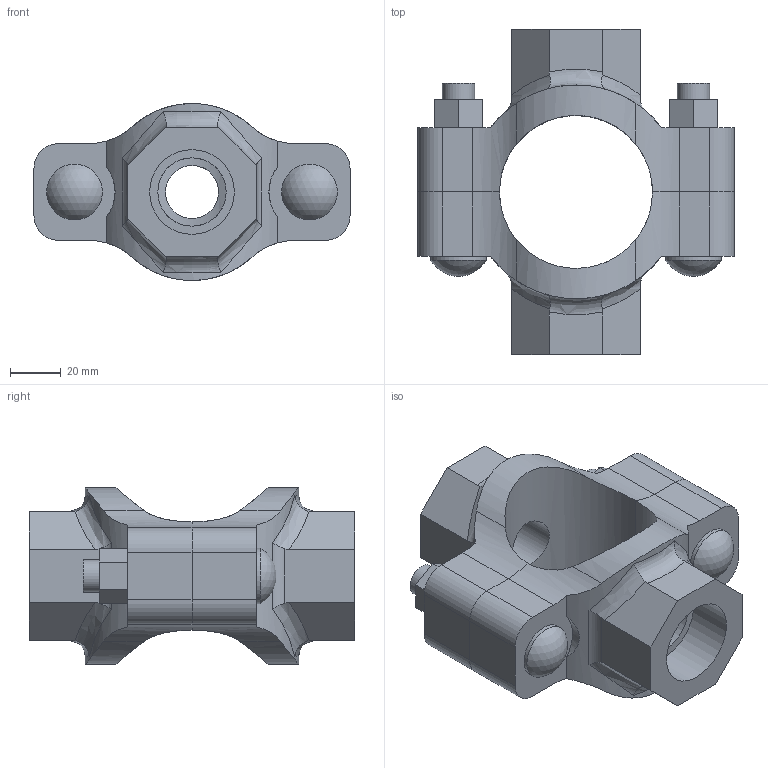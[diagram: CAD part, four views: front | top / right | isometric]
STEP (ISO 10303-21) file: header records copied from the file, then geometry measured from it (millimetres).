
FILE_DESCRIPTION(/* description */ ('VIC MECH-T BRANCH OUTLET CROSS STYLE 920N (THD)','CAx-IF Rec.Pracs.---Representation and Presentation of Product Manufacturing Information (PMI)---4.0---2014-10-13'),/* implementation_level */ '2;1');
FILE_NAME(/* name */ 'C:\Users\Vjadhav\AppData\Roaming\Autodesk\ApplicationPlugins\Back Up\Victaulic_IPS_Mechanical-Cross Outlet_Style 920N (FPT)\Victaulic_IPS_Mechanical-Cross Outlet_02.0x0.75x01.0 (50x20x25).stp',/* time_stamp */ '2020-08-06T18:55:58+05:00',/* author */ ('Vjadhav'),/* organization */ ('Victaulic'),/* preprocessor_version */ 'ST-DEVELOPER v17.2',/* originating_system */ 'Autodesk Inventor 2019',/* authorisation */ '');
FILE_SCHEMA (('AP242_MANAGED_MODEL_BASED_3D_ENGINEERING_MIM_LF { 1 0 10303 442 1 1 4 }'));
Length unit declared in the file: inch
Products named in the file (3): 920NT-02.0x0.75x01.0; 920NT-02.0x0.75; 920NT-02.0x01.0
Assembly tree (2 placements, depth 2):
  920NT-02.0x0.75x01.0
    920NT-02.0x0.75
    920NT-02.0x01.0
Bounding box: 124.71 x 128.52 x 69.83 mm (x, y, z)
Volume: 291893.2 mm3; surface area: 66779 mm2
Topology: 2 solids, 2 shells, 132 faces, 350 edges, 236 vertices
Faces by surface type: plane 68, cylinder 50, bspline 8, torus 4, sphere 2
Full cylindrical faces by diameter (mm): 12.7 x4, 20.93 x1, 21.982 x2, 26.67 x1, 26.987 x1, 33.401 x1
Entity records: 5046 total; most frequent: CARTESIAN_POINT 1533, ORIENTED_EDGE 700, DIRECTION 648, EDGE_CURVE 350, VERTEX_POINT 236, AXIS2_PLACEMENT_3D 231, LINE 186, VECTOR 186
